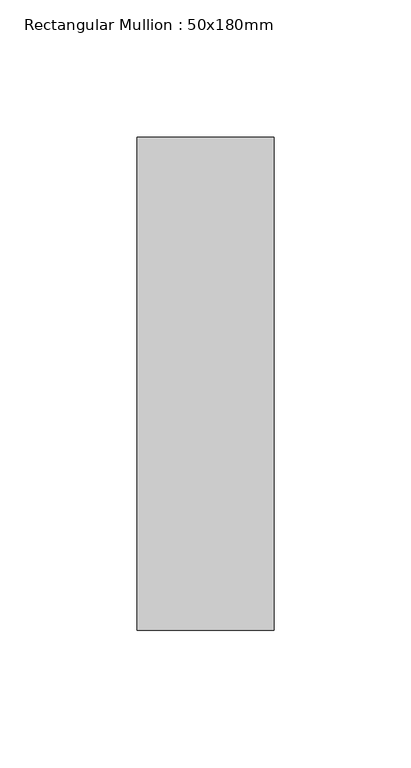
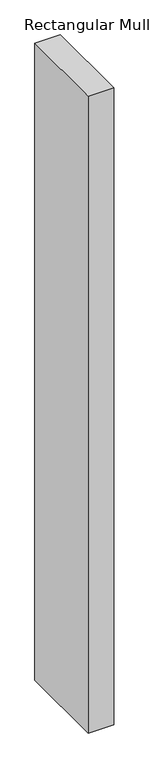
"""IFC4 building model written with IfcOpenShell, lengths in millimetres: member geometry, Rectangular Mullion : 50x180mm."""

from ifc_helpers import new_model, si_unit, frame, origin, place, context, project, spatial, polyline, outline, extrude, source, transform, mapped, element, save


def rectangular_mullion_50x180mm_57499758(model_context):
    return source(origin(), model_context, "Body", "SweptSolid", [
        extrude(outline(polyline([(0.0, 90.0), (0.0, -90.0), (-50.0, -90.0), (-50.0, 90.0), (0.0, 90.0)])), frame((0.0, 0.0, -1315.8333333), z_axis=(0.0, 0.0, 1.0), x_axis=(1.0, 0.0, 0.0)), (0.0, 0.0, 1.0), 1315.8333333),
    ])


if __name__ == "__main__":
    model = new_model("IFC4")
    model_context = context("Model", 3, world=origin())
    ifc_project = project(units=[si_unit("LENGTHUNIT", "METRE", prefix="MILLI")], contexts=[model_context])
    site = spatial("IfcSite", under=ifc_project)
    building = spatial("IfcBuilding", under=site)
    placement = place(None, origin())
    rectangular_mullion_50x180mm_shape = rectangular_mullion_50x180mm_57499758(model_context)
    element("IfcMember", 1, ObjectType="Rectangular Mullion : 50x180mm", at=placement, inside=building, context=model_context, shape_type="MappedRepresentation", body=[
        mapped(rectangular_mullion_50x180mm_shape, transform((0.0, 0.0, 0.0), x_axis=(1.0, 0.0, 0.0), y_axis=(0.0, 1.0, 0.0), z_axis=(0.0, 0.0, 1.0))),
    ])
    save(model, "model.ifc")
